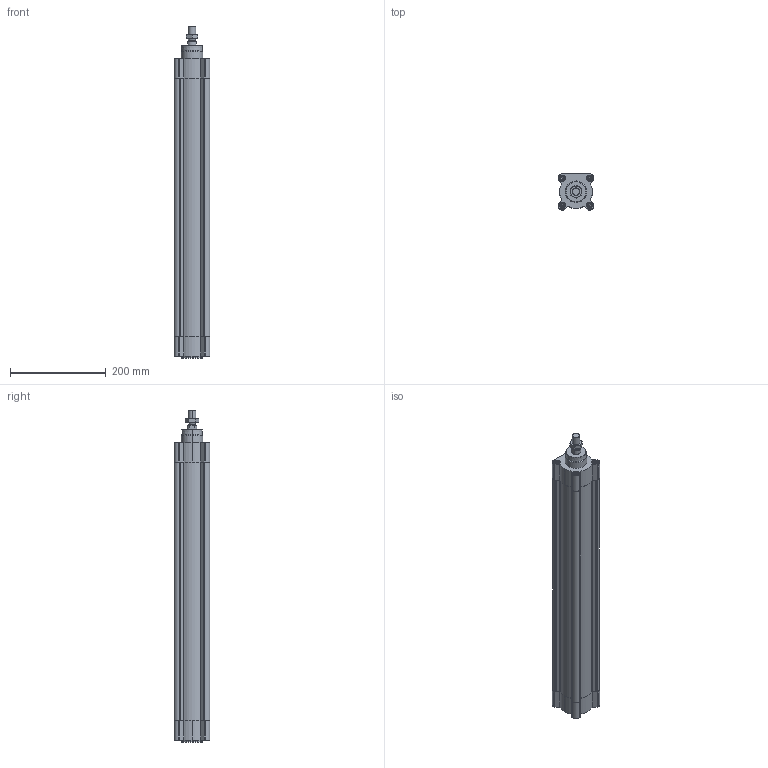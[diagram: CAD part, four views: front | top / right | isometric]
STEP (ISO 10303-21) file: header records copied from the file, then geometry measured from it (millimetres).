
FILE_DESCRIPTION (( 'STEP AP203' ), '1' );
FILE_NAME ('CPME63-500.STEP', '2023-07-20T18:10:24', ( '' ), ( '' ), 'SwSTEP 2.0', 'SolidWorks 2019', '' );
FILE_SCHEMA (( 'CONFIG_CONTROL_DESIGN' ));
Length unit declared in the file: millimetre
Products named in the file (1): CPME63-500
Bounding box: 75 x 75 x 693.1 mm (x, y, z)
Volume: 1558497 mm3; surface area: 406988.2 mm2
Topology: 3 solids, 3 shells, 639 faces, 1655 edges, 1050 vertices
Faces by surface type: plane 325, cylinder 200, cone 106, torus 8
Entity records: 19989 total; most frequent: CARTESIAN_POINT 4403, ORIENTED_EDGE 3278, DIRECTION 3187, EDGE_CURVE 1639, AXIS2_PLACEMENT_3D 1131, VERTEX_POINT 1050, VECTOR 925, LINE 925
